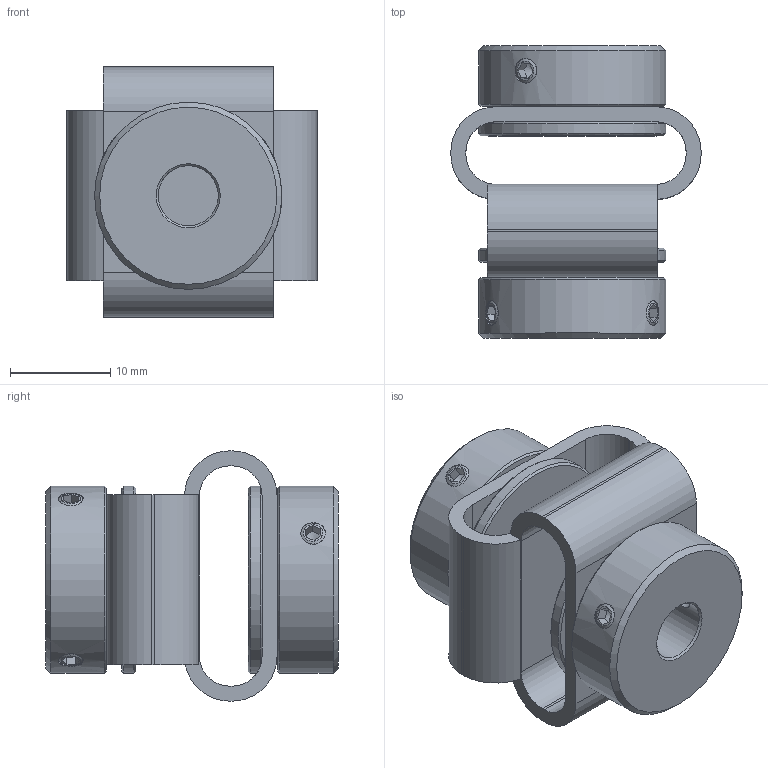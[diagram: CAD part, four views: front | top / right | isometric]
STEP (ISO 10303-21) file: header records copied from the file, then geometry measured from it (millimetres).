
FILE_DESCRIPTION(/* description */ (''),/* implementation_level */ '2;1');
FILE_NAME(/* name */ 'Z:\ABP-Antriebstechnik\Entwicklung-3D\Paguflex\DKPS 2928 04 06.stp',/* time_stamp */ '2017-06-30T07:59:48+02:00',/* author */ ('werner.boesinger'),/* organization */ (''),/* preprocessor_version */ 'ST-DEVELOPER v16.1',/* originating_system */ 'Autodesk Inventor 2016',/* authorisation */ '');
FILE_SCHEMA (('AUTOMOTIVE_DESIGN { 1 0 10303 214 3 1 1 }'));
Length unit declared in the file: millimetre
Products named in the file (1): DKPS 2928 04 06
Bounding box: 25 x 29.2 x 25 mm (x, y, z)
Volume: 6023.2 mm3; surface area: 5417 mm2
Topology: 1 solids, 3 shells, 154 faces, 369 edges, 228 vertices
Faces by surface type: plane 90, cylinder 36, cone 28
Full cylindrical faces by diameter (mm): 2.459 x8, 4 x1, 6 x1, 12.5 x2, 14 x4, 18.7 x4
Entity records: 4367 total; most frequent: CARTESIAN_POINT 961, DIRECTION 694, ORIENTED_EDGE 572, EDGE_CURVE 286, AXIS2_PLACEMENT_3D 273, EDGE_LOOP 220, VERTEX_POINT 192, STYLED_ITEM 155
